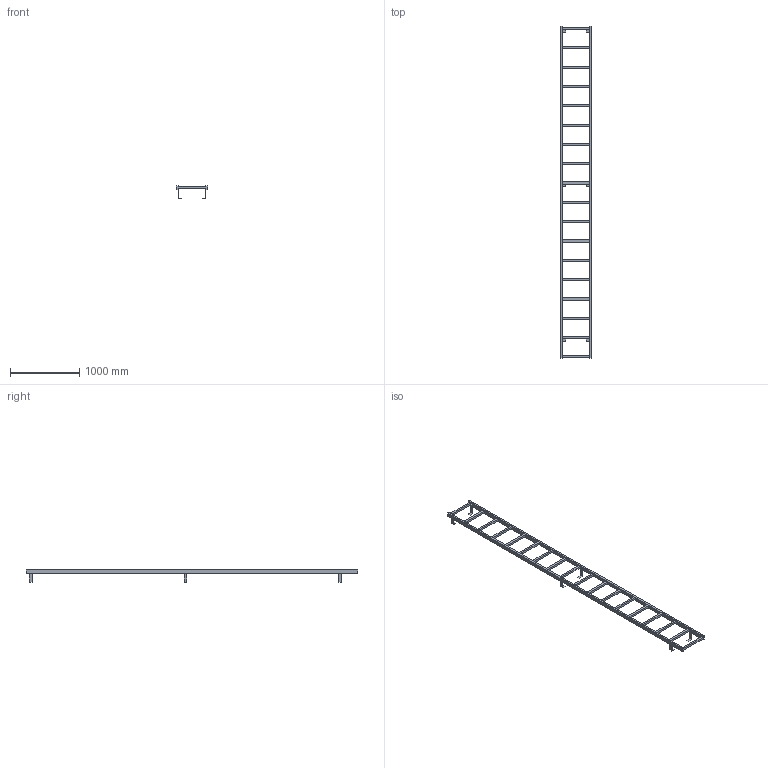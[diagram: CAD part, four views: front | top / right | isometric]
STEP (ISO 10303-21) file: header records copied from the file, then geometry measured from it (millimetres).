
FILE_DESCRIPTION((''),'2;1');
FILE_NAME('017_000109','2017-06-19T',('set'),('HUBER SE'),'PRO/ENGINEER BY PARAMETRIC TECHNOLOGY CORPORATION, 2015280','PRO/ENGINEER BY PARAMETRIC TECHNOLOGY CORPORATION, 2015280','');
FILE_SCHEMA(('CONFIG_CONTROL_DESIGN'));
Length unit declared in the file: millimetre
Products named in the file (1): 017_000109
Bounding box: 450 x 4810 x 178.5 mm (x, y, z)
Volume: 20285940 mm3; surface area: 2504212 mm2
Topology: 1 solids, 1 shells, 130 faces, 485 edges, 351 vertices
Faces by surface type: plane 130
Entity records: 5026 total; most frequent: CARTESIAN_POINT 1025, ORIENTED_EDGE 768, DIRECTION 736, VECTOR 438, LINE 438, EDGE_CURVE 384, VERTEX_POINT 250, EDGE_LOOP 158
